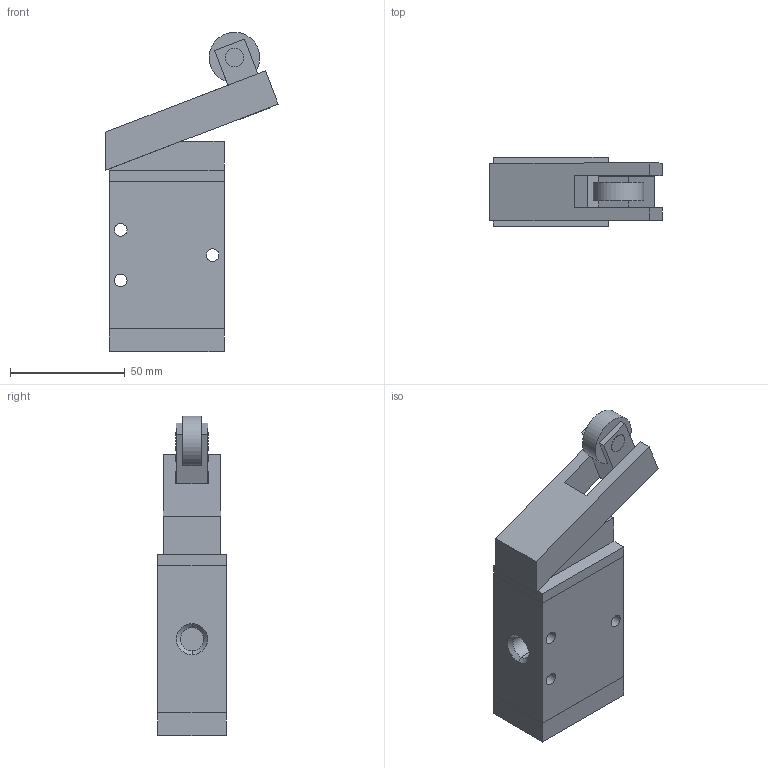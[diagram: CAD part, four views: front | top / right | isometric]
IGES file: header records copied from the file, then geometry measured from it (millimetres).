
Global section: file name: No Iges File Name specified; native system: AutoDesk Inventor R11.0; preprocessor: AutoDesk Inventor Iges Exporter R11.0; author: No Author specified; organization: No Organization specified; date: 20061219.113553; units: millimetre
Bounding box: 75 x 30 x 138.98 mm (x, y, z)
Volume: 150459.7 mm3; surface area: 27858.9 mm2
Topology: 2 solids, 2 shells, 67 faces, 159 edges, 104 vertices
Faces by surface type: plane 41, bspline 15, revolution 6, cylinder 5
